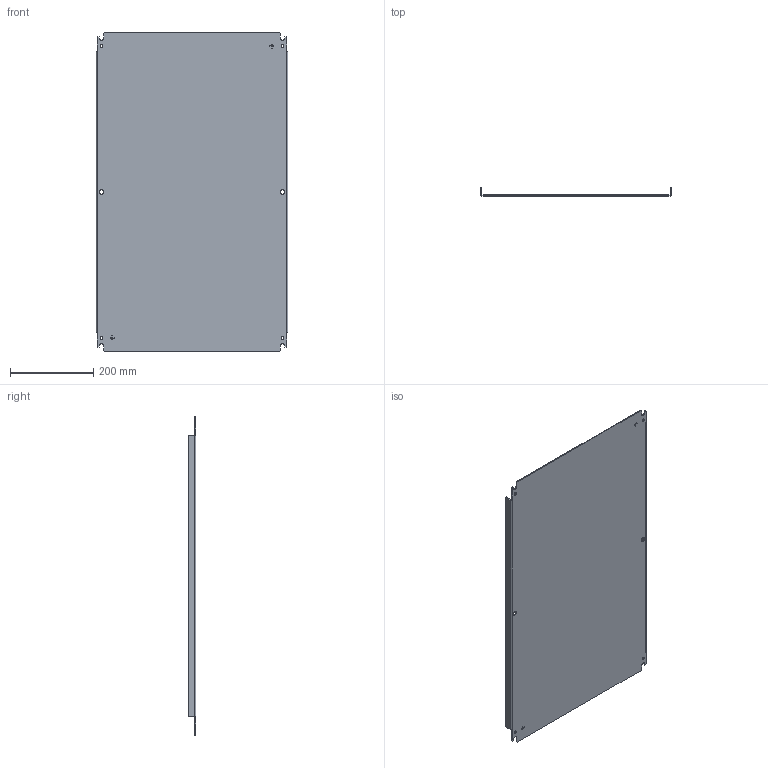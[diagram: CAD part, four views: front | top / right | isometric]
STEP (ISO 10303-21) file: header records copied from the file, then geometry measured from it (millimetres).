
FILE_DESCRIPTION (( 'STEP AP203' ), '1' );
FILE_NAME ('cp3220.STEP', '2011-12-01T20:51:32', ( 'Hoffman User' ), ( 'Hoffman Enclosures' ), 'SwSTEP 2.0', 'SolidWorks 2010', '' );
FILE_SCHEMA (( 'CONFIG_CONTROL_DESIGN' ));
Length unit declared in the file: inch
Products named in the file (2): 89072495; cp3220
Assembly tree (1 placements, depth 2):
  cp3220
    89072495
Bounding box: 462.28 x 19.05 x 767.08 mm (x, y, z)
Volume: 919990.8 mm3; surface area: 753608.5 mm2
Topology: 1 solids, 1 shells, 136 faces, 340 edges, 212 vertices
Faces by surface type: plane 116, cylinder 20
Entity records: 4180 total; most frequent: CARTESIAN_POINT 692, ORIENTED_EDGE 680, DIRECTION 664, EDGE_CURVE 340, LINE 296, VECTOR 296, VERTEX_POINT 212, AXIS2_PLACEMENT_3D 184
